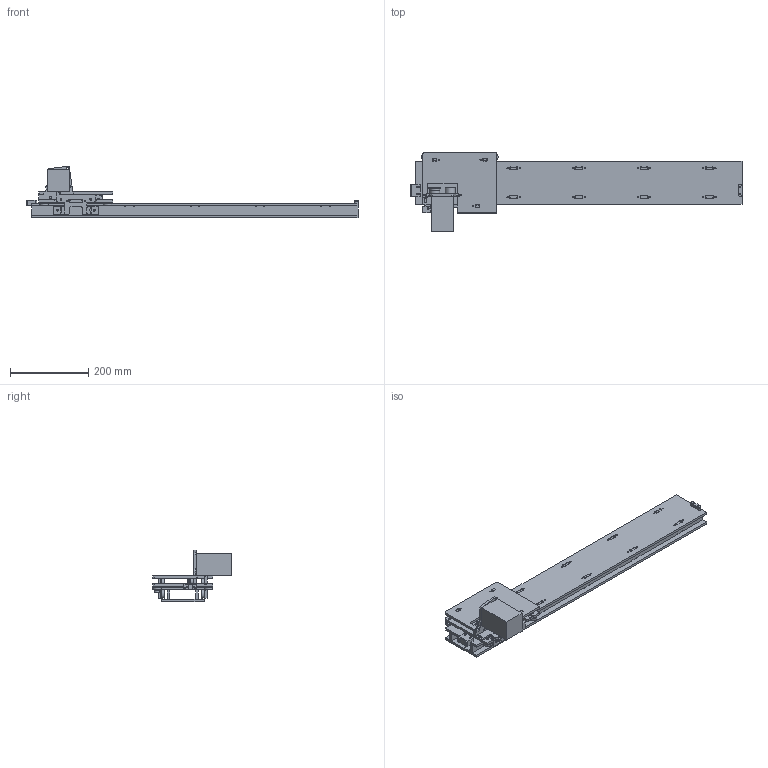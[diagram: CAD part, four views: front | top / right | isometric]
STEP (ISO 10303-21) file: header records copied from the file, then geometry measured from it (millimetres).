
FILE_DESCRIPTION(/* description */ (''),/* implementation_level */ '2;1');
FILE_NAME(/* name */ 'D:/dropbox/CBA/projects/machines/rctgantries/cad/dev/n17/RCTN23-025ALU v51.step',/* time_stamp */ '2019-01-07T16:24:57-05:00',/* author */ ('jakerobertread@gmail.com'),/* organization */ (''),/* preprocessor_version */ 'ST-DEVELOPER v17.2',/* originating_system */ 'Autodesk Translation Framework v7.6.0.251',/* authorisation */ '');
FILE_SCHEMA (('AUTOMOTIVE_DESIGN { 1 0 10303 214 3 1 1 }'));
Length unit declared in the file: millimetre
Products named in the file (1): RCTN23-025ALU
Bounding box: 850.7 x 202.4 x 131.95 mm (x, y, z)
Volume: 2114743.8 mm3; surface area: 701742.5 mm2
Topology: 30 solids, 30 shells, 1226 faces, 3487 edges, 2324 vertices
Faces by surface type: cylinder 766, plane 456, cone 3, torus 1
Full cylindrical faces by diameter (mm): 2.5 x14, 2.94 x4, 3.25 x53, 4 x4, 4.2 x1, 5 x28, 13 x1, 18 x1, 22 x13, 25.4 x3, 29.4 x1
Entity records: 41114 total; most frequent: DIRECTION 7480, CARTESIAN_POINT 7038, ORIENTED_EDGE 6974, EDGE_CURVE 3487, AXIS2_PLACEMENT_3D 2766, VERTEX_POINT 2324, LINE 1948, VECTOR 1948
